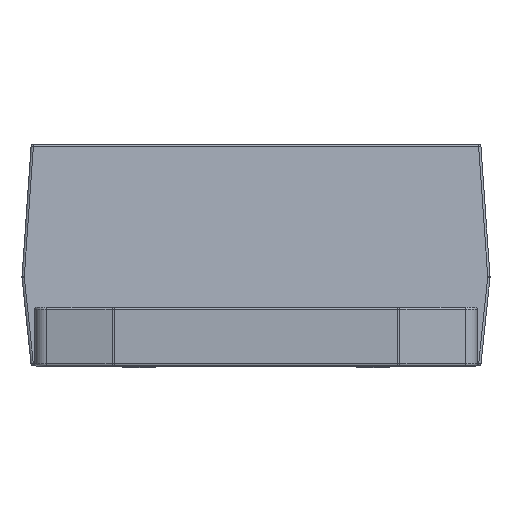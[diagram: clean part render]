
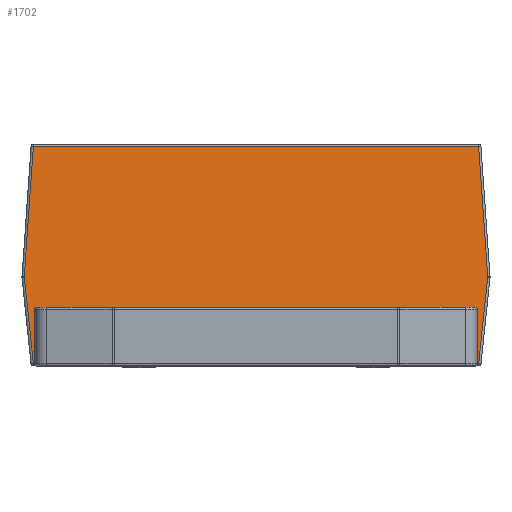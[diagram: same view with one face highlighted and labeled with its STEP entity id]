
A CAD part, left-side view. The second image highlights one B-rep face of the part: STEP entity #1702.
In plain terms, the highlighted planar face has unit normal (-0.996, 0, 0.087).
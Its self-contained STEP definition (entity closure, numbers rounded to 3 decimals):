
#1702=ADVANCED_FACE('',(#4377),#4379,.T.);
#4377=FACE_BOUND('',#4378,.T.);
#4378=EDGE_LOOP('',(#10601,#10602,#10603,#10604,#10605,#10606,#10607,#10608));
#4379=PLANE('',#4380);
#4380=AXIS2_PLACEMENT_3D('',#4381,#4382,#4383);
#4381=CARTESIAN_POINT('',(-5.864,4.88,-9.702));
#4382=DIRECTION('',(-0.996,0.,0.087));
#4383=DIRECTION('',(0.,-1.,0.));
#10601=ORIENTED_EDGE('',*,*,#11647,.F.);
#10602=ORIENTED_EDGE('',*,*,#11648,.T.);
#10603=ORIENTED_EDGE('',*,*,#11649,.F.);
#10604=ORIENTED_EDGE('',*,*,#11650,.T.);
#10605=ORIENTED_EDGE('',*,*,#11651,.F.);
#10606=ORIENTED_EDGE('',*,*,#11625,.F.);
#10607=ORIENTED_EDGE('',*,*,#11652,.F.);
#10608=ORIENTED_EDGE('',*,*,#11653,.F.);
#11625=EDGE_CURVE('',#12708,#12706,#12710,.T.);
#11647=EDGE_CURVE('',#12743,#12744,#12745,.T.);
#11648=EDGE_CURVE('',#12743,#12746,#12747,.T.);
#11649=EDGE_CURVE('',#12748,#12746,#12749,.T.);
#11650=EDGE_CURVE('',#12748,#12750,#12751,.T.);
#11651=EDGE_CURVE('',#12706,#12750,#12752,.T.);
#11652=EDGE_CURVE('',#12753,#12708,#12754,.T.);
#11653=EDGE_CURVE('',#12744,#12753,#12755,.T.);
#12706=VERTEX_POINT('',#15079);
#12708=VERTEX_POINT('',#15084);
#12710=LINE('',#15089,#15090);
#12743=VERTEX_POINT('',#15176);
#12744=VERTEX_POINT('',#15177);
#12745=LINE('',#15178,#15179);
#12746=VERTEX_POINT('',#15181);
#12747=LINE('',#15182,#15183);
#12748=VERTEX_POINT('',#15185);
#12749=LINE('',#15186,#15187);
#12750=VERTEX_POINT('',#15189);
#12751=LINE('',#15190,#15191);
#12752=LINE('',#15193,#15194);
#12753=VERTEX_POINT('',#15196);
#12754=LINE('',#15197,#15198);
#12755=LINE('',#15200,#15201);
#15079=CARTESIAN_POINT('',(-4.599,-4.833,4.754));
#15084=CARTESIAN_POINT('',(-4.599,4.833,4.754));
#15089=CARTESIAN_POINT('',(-4.599,4.833,4.754));
#15090=VECTOR('',#15091,1.);
#15091=DIRECTION('',(0.,-1.,0.));
#15176=CARTESIAN_POINT('',(-5.01,4.835,0.054));
#15177=CARTESIAN_POINT('',(-4.848,5.03,1.91));
#15178=CARTESIAN_POINT('',(-5.01,4.835,0.054));
#15179=VECTOR('',#15180,1.);
#15180=DIRECTION('',(0.087,0.104,0.991));
#15181=CARTESIAN_POINT('',(-5.01,-4.835,0.054));
#15182=CARTESIAN_POINT('',(-5.01,4.835,0.054));
#15183=VECTOR('',#15184,1.);
#15184=DIRECTION('',(0.,-1.,0.));
#15185=CARTESIAN_POINT('',(-4.848,-5.03,1.91));
#15186=CARTESIAN_POINT('',(-4.848,-5.03,1.91));
#15187=VECTOR('',#15188,1.);
#15188=DIRECTION('',(-0.087,0.104,-0.991));
#15189=CARTESIAN_POINT('',(-4.845,-5.03,1.942));
#15190=CARTESIAN_POINT('',(-4.848,-5.03,1.91));
#15191=VECTOR('',#15192,1.);
#15192=DIRECTION('',(0.087,0.,0.996));
#15193=CARTESIAN_POINT('',(-4.599,-4.833,4.754));
#15194=VECTOR('',#15195,1.);
#15195=DIRECTION('',(-0.087,-0.069,-0.994));
#15196=CARTESIAN_POINT('',(-4.845,5.03,1.942));
#15197=CARTESIAN_POINT('',(-4.845,5.03,1.942));
#15198=VECTOR('',#15199,1.);
#15199=DIRECTION('',(0.087,-0.069,0.994));
#15200=CARTESIAN_POINT('',(-4.848,5.03,1.91));
#15201=VECTOR('',#15202,1.);
#15202=DIRECTION('',(0.087,0.,0.996));
